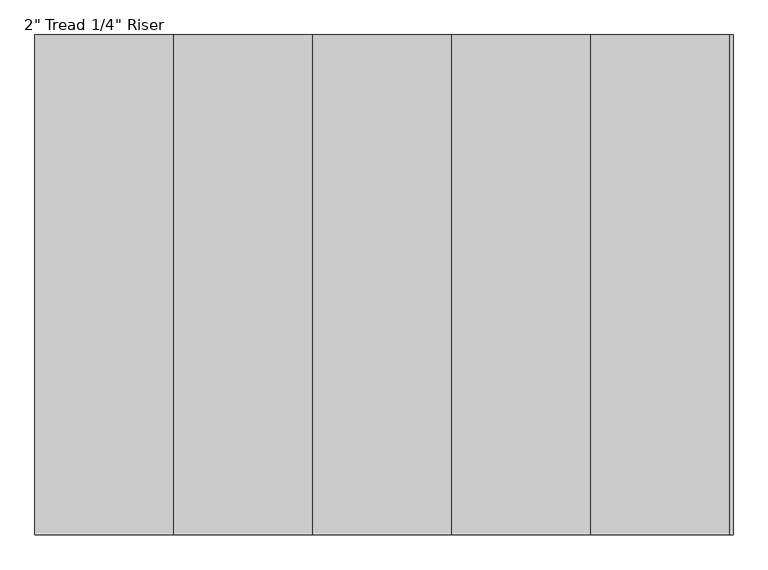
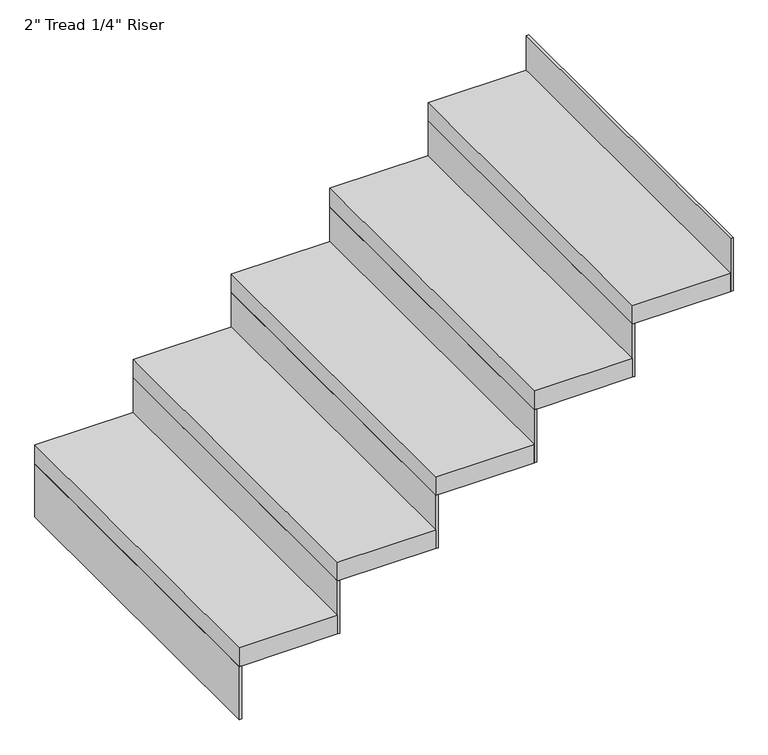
"""IFC4 building model written with IfcOpenShell, lengths in millimetres: stair flight geometry."""

from ifc_helpers import new_model, si_unit, frame, origin, place, context, project, spatial, polyline, outline, extrude, source, transform, mapped, element, save


def stair_flight_2d9f9aa4(model_context):
    return source(origin(), model_context, "Body", "SweptSolid", [
        extrude(outline(polyline([(89069.5265442, 32332.2812523), (89063.1765442, 32332.2812523), (89063.1765442, 33246.6812523), (89069.5265442, 33246.6812523), (89069.5265442, 32332.2812523)])), frame((0.0, 0.0, 2126.3428571), z_axis=(0.0, 0.0, 1.0), x_axis=(1.0, 0.0, 0.0)), (0.0, 0.0, 1.0), 145.1428571),
        extrude(outline(polyline([(89317.1765442, 33246.6812523), (89317.1765442, 32332.2812523), (89063.1765442, 32332.2812523), (89063.1765442, 33246.6812523), (89317.1765442, 33246.6812523)])), frame((0.0, 0.0, 2271.4857143), z_axis=(0.0, 0.0, 1.0), x_axis=(1.0, 0.0, 0.0)), (0.0, 0.0, 1.0), 50.8),
        extrude(outline(polyline([(89323.5265442, 32332.2812523), (89317.1765442, 32332.2812523), (89317.1765442, 33246.6812523), (89323.5265442, 33246.6812523), (89323.5265442, 32332.2812523)])), frame((0.0, 0.0, 2271.4857143), z_axis=(0.0, 0.0, 1.0), x_axis=(1.0, 0.0, 0.0)), (0.0, 0.0, 1.0), 145.1428571),
        extrude(outline(polyline([(89571.1765442, 33246.6812523), (89571.1765442, 32332.2812523), (89317.1765442, 32332.2812523), (89317.1765442, 33246.6812523), (89571.1765442, 33246.6812523)])), frame((0.0, 0.0, 2416.6285714), z_axis=(0.0, 0.0, 1.0), x_axis=(1.0, 0.0, 0.0)), (0.0, 0.0, 1.0), 50.8),
        extrude(outline(polyline([(89577.5265442, 32332.2812523), (89571.1765442, 32332.2812523), (89571.1765442, 33246.6812523), (89577.5265442, 33246.6812523), (89577.5265442, 32332.2812523)])), frame((0.0, 0.0, 2416.6285714), z_axis=(0.0, 0.0, 1.0), x_axis=(1.0, 0.0, 0.0)), (0.0, 0.0, 1.0), 145.1428571),
        extrude(outline(polyline([(89825.1765442, 33246.6812523), (89825.1765442, 32332.2812523), (89571.1765442, 32332.2812523), (89571.1765442, 33246.6812523), (89825.1765442, 33246.6812523)])), frame((0.0, 0.0, 2561.7714286), z_axis=(0.0, 0.0, 1.0), x_axis=(1.0, 0.0, 0.0)), (0.0, 0.0, 1.0), 50.8),
        extrude(outline(polyline([(89831.5265442, 32332.2812523), (89825.1765442, 32332.2812523), (89825.1765442, 33246.6812523), (89831.5265442, 33246.6812523), (89831.5265442, 32332.2812523)])), frame((0.0, 0.0, 2561.7714286), z_axis=(0.0, 0.0, 1.0), x_axis=(1.0, 0.0, 0.0)), (0.0, 0.0, 1.0), 145.1428571),
        extrude(outline(polyline([(90079.1765442, 33246.6812523), (90079.1765442, 32332.2812523), (89825.1765442, 32332.2812523), (89825.1765442, 33246.6812523), (90079.1765442, 33246.6812523)])), frame((0.0, 0.0, 2706.9142857), z_axis=(0.0, 0.0, 1.0), x_axis=(1.0, 0.0, 0.0)), (0.0, 0.0, 1.0), 50.8),
        extrude(outline(polyline([(90085.5265442, 32332.2812523), (90079.1765442, 32332.2812523), (90079.1765442, 33246.6812523), (90085.5265442, 33246.6812523), (90085.5265442, 32332.2812523)])), frame((0.0, 0.0, 2706.9142857), z_axis=(0.0, 0.0, 1.0), x_axis=(1.0, 0.0, 0.0)), (0.0, 0.0, 1.0), 145.1428571),
        extrude(outline(polyline([(90339.5265442, 32332.2812523), (90333.1765442, 32332.2812523), (90333.1765442, 33246.6812523), (90339.5265442, 33246.6812523), (90339.5265442, 32332.2812523)])), frame((0.0, 0.0, 2852.0571429), z_axis=(0.0, 0.0, 1.0), x_axis=(1.0, 0.0, 0.0)), (0.0, 0.0, 1.0), 145.1428571),
        extrude(outline(polyline([(90333.1765442, 33246.6812523), (90333.1765442, 32332.2812523), (90079.1765442, 32332.2812523), (90079.1765442, 33246.6812523), (90333.1765442, 33246.6812523)])), frame((0.0, 0.0, 2852.0571429), z_axis=(0.0, 0.0, 1.0), x_axis=(1.0, 0.0, 0.0)), (0.0, 0.0, 1.0), 50.8),
    ])


if __name__ == "__main__":
    model = new_model("IFC4")
    model_context = context("Model", 3, world=origin())
    ifc_project = project(units=[si_unit("LENGTHUNIT", "METRE", prefix="MILLI")], contexts=[model_context])
    site = spatial("IfcSite", under=ifc_project)
    building = spatial("IfcBuilding", under=site)
    placement = place(None, origin())
    stair_flight_shape = stair_flight_2d9f9aa4(model_context)
    element("IfcStairFlight", 1, ObjectType="2\" Tread 1/4\" Riser", at=placement, inside=building, context=model_context, shape_type="MappedRepresentation", body=[
        mapped(stair_flight_shape, transform((0.0, 0.0, 0.0), x_axis=(1.0, 0.0, 0.0), y_axis=(0.0, 1.0, 0.0), z_axis=(0.0, 0.0, 1.0))),
    ])
    save(model, "model.ifc")
